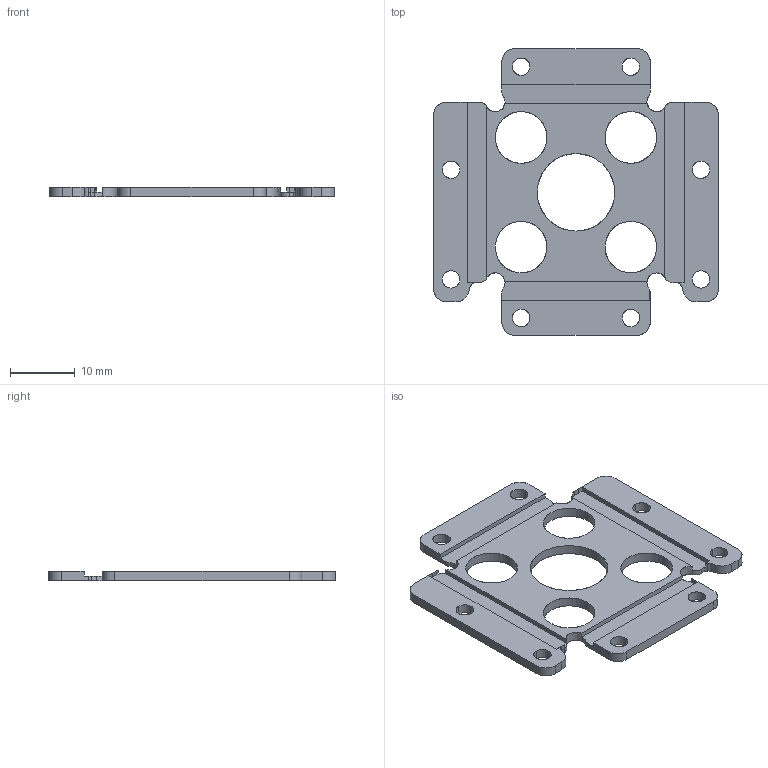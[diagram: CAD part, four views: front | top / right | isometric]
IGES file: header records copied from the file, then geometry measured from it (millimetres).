
Global section: file name: C:\Users\Knabe\Documents\Classes\8 Semester 8\DARwIn\Deliverables\DARwIn OP\DARwIn OP Part Files\CAD 2D\2D IGS\11_FR07_SC101.igs; native system: NX V7.0; preprocessor: SIEMENS PLM Software NX 7.0; date: 20110525.173239; units: millimetre
Bounding box: 44.13 x 44.43 x 1.5 mm (x, y, z)
Surface area: 3253.7 mm2 (no closed solid volume)
Topology: 0 solids, 0 shells, 110 faces, 809 edges, 809 vertices
Faces by surface type: bspline 110
